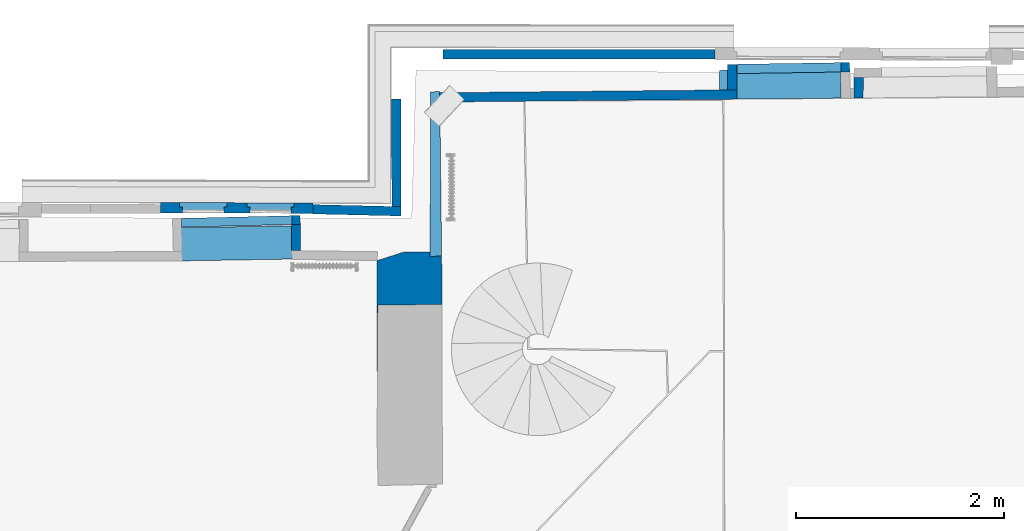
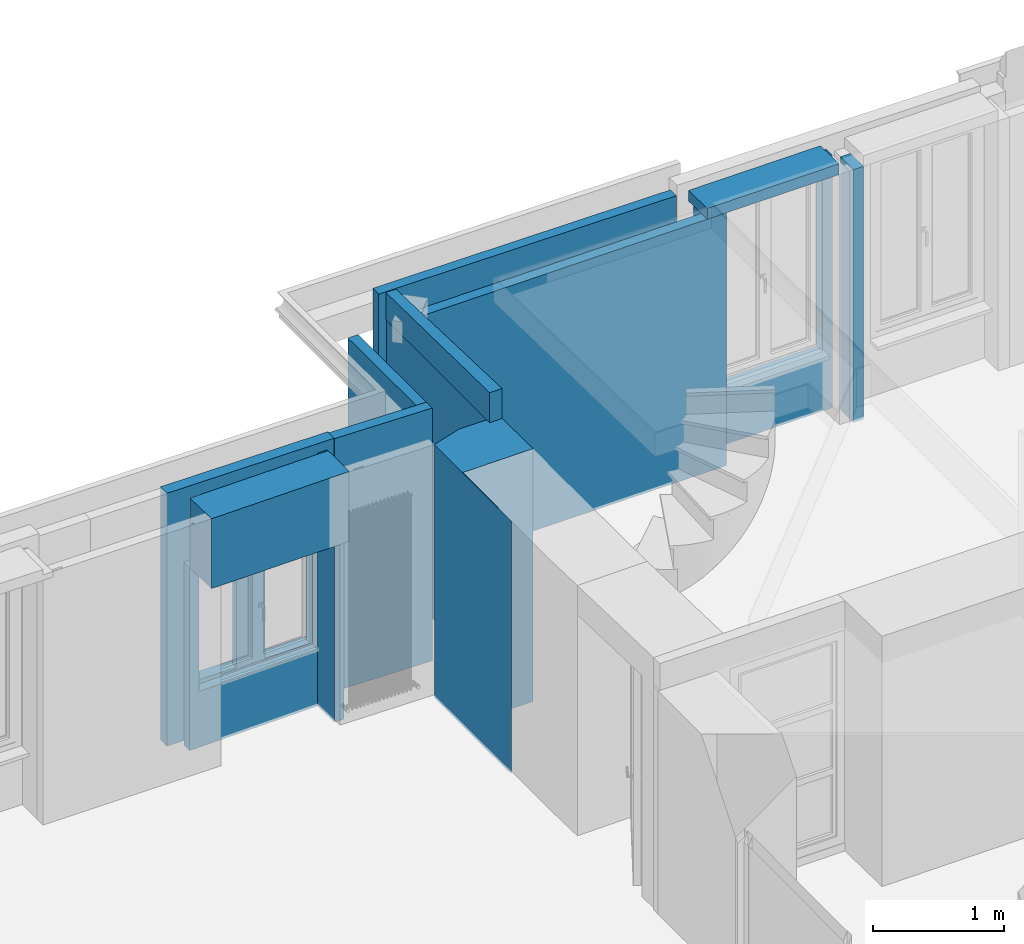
# One storey, part 23 of 72: 14 walls, 4 openings.
"""IFC2X3 building model written with IfcOpenShell, lengths in centimetres."""

import ifcopenshell
import ifcopenshell.guid

model = None  # the IFC model being written
_history = None  # IfcOwnerHistory: only IFC2X3 demands one
_inside = {}  # id of a spatial element -> (the spatial element, [elements in it])
_under = {}  # id of a project, library or spatial element -> (it, [spatial elements below it])
_declared = {}  # id of a project -> (the project, [libraries it declares])
_typed = {}  # id of a type object -> (the type object, [elements of that type])
_made_of = {}  # id of a material, layer set ... -> (it, [elements and type objects made of it])


def new_model(schema):
    """Start an empty IFC model of exactly this schema.

    Asked for "IFC4X3", IfcOpenShell would pick the latest addendum, in which some entities
    have other attributes; the version numbers below select the first issue.
    IFC2X3 requires an IfcOwnerHistory on every rooted entity: one is made here for all.
    """
    global model, _history
    if schema == "IFC4X3":
        model = ifcopenshell.file(schema_version=(4, 3, 0, 0))
    else:
        model = ifcopenshell.file(schema=schema)
    _inside.clear()
    _under.clear()
    _declared.clear()
    _typed.clear()
    _made_of.clear()
    _history = None
    if model.schema == "IFC2X3":
        org = make("IfcOrganization", Name="unknown")
        user = make(
            "IfcPersonAndOrganization",
            ThePerson=make("IfcPerson", FamilyName="unknown"),
            TheOrganization=org,
        )
        app = make(
            "IfcApplication",
            ApplicationDeveloper=org,
            Version="unknown",
            ApplicationFullName="unknown",
            ApplicationIdentifier="unknown",
        )
        _history = make(
            "IfcOwnerHistory",
            OwningUser=user,
            OwningApplication=app,
            ChangeAction="ADDED",
            CreationDate=0,
        )
    return model


def make(cls, **values):
    """One entity of the class cls with the attributes given. An attribute that is None is left unset."""
    return model.create_entity(
        cls, **{name: value for name, value in values.items() if value is not None}
    )


def entity(cls, *values):
    """Any entity or typed value of the class cls, its attributes in the order of the schema. None: left unset."""
    e = model.create_entity(cls)
    for i, value in enumerate(values):
        if value is not None:
            e[i] = value
    return e


def rooted(cls, **values):
    """An entity with a GlobalId (a new one), such as an element, a storey or a relation."""
    return make(cls, GlobalId=ifcopenshell.guid.new(), OwnerHistory=_history, **values)


def si_unit(unit_type, name, prefix=None):
    """IfcSIUnit, for example si_unit("LENGTHUNIT", "METRE", prefix="MILLI")."""
    return make("IfcSIUnit", UnitType=unit_type, Prefix=prefix, Name=name)


def converted_unit(unit_type, name, factor, base, dimensions=None, offset=None):
    """IfcConversionBasedUnit, such as the inch: factor (a typed value) times the base unit."""
    return make(
        "IfcConversionBasedUnit"
        if offset is None
        else "IfcConversionBasedUnitWithOffset",
        ConversionOffset=offset,
        Dimensions=None
        if dimensions is None
        else entity("IfcDimensionalExponents", *dimensions),
        UnitType=unit_type,
        Name=name,
        ConversionFactor=make(
            "IfcMeasureWithUnit", ValueComponent=factor, UnitComponent=base
        ),
    )


def assignment(units):
    """IfcUnitAssignment: the units of a project."""
    return None if units is None else make("IfcUnitAssignment", Units=units)


def point(xyz):
    """IfcCartesianPoint."""
    return None if xyz is None else make("IfcCartesianPoint", Coordinates=xyz)


def direction(xyz):
    """IfcDirection."""
    return None if xyz is None else make("IfcDirection", DirectionRatios=xyz)


def frame(location, z_axis=None, x_axis=None):
    """IfcAxis2Placement3D, a coordinate frame: its origin and axes. An axis left out is left unset."""
    return make(
        "IfcAxis2Placement3D",
        Location=point(location),
        Axis=direction(z_axis),
        RefDirection=direction(x_axis),
    )


def frame_2d(location, x_axis=None):
    """IfcAxis2Placement2D, a coordinate frame in the plane: its origin and x axis."""
    return make(
        "IfcAxis2Placement2D", Location=point(location), RefDirection=direction(x_axis)
    )


def origin():
    """The frame at (0, 0, 0) with its axes left unset."""
    return frame((0.0, 0.0, 0.0))


def origin_with_axes():
    """The frame at (0, 0, 0) with the z axis (0, 0, 1) and the x axis (1, 0, 0) written out."""
    return frame((0.0, 0.0, 0.0), z_axis=(0.0, 0.0, 1.0), x_axis=(1.0, 0.0, 0.0))


def origin_2d_with_axis():
    """The frame at (0, 0) in the plane with the x axis (1, 0) written out."""
    return frame_2d((0.0, 0.0), x_axis=(1.0, 0.0))


def place(relative_to, where):
    """IfcLocalPlacement: puts the frame where relative to a parent placement (None: the world)."""
    return make(
        "IfcLocalPlacement", PlacementRelTo=relative_to, RelativePlacement=where
    )


def context(
    kind, dimensions, precision=None, world=None, true_north=None, identifier=None
):
    """IfcGeometricRepresentationContext, for example the 3D "Model" context."""
    return make(
        "IfcGeometricRepresentationContext",
        ContextIdentifier=identifier,
        ContextType=kind,
        CoordinateSpaceDimension=dimensions,
        Precision=precision,
        WorldCoordinateSystem=world,
        TrueNorth=true_north,
    )


def subcontext(parent, identifier, kind, view, scale=None):
    """IfcGeometricRepresentationSubContext, for example "Body" below "Model"."""
    return make(
        "IfcGeometricRepresentationSubContext",
        ContextIdentifier=identifier,
        ContextType=kind,
        ParentContext=parent,
        TargetScale=scale,
        TargetView=view,
    )


def project(units=None, contexts=None):
    """IfcProject with its units and contexts."""
    return rooted(
        "IfcProject",
        Name="project",
        RepresentationContexts=contexts,
        UnitsInContext=assignment(units),
    )


def spatial(cls, under=None, at=None, **own):
    """A site, building, storey or space (cls), placed at a placement, below another one or the project."""
    s = rooted(cls, ObjectPlacement=at, **own)
    if under is not None:
        _under.setdefault(under.id(), (under, []))[1].append(s)
    return s


def polyline(points):
    """IfcPolyline through the points."""
    return make("IfcPolyline", Points=[point(p) for p in points])


def profile(cls, at=None, kind="AREA", **sizes):
    """A parametric profile (cls). Its sizes go by their IFC names, for example OverallWidth=200.0."""
    return make(cls, ProfileType=kind, Position=at, **sizes)


def rectangle(**sizes):
    """IfcRectangleProfileDef."""
    return profile("IfcRectangleProfileDef", **sizes)


def outline(outer, holes=None, kind="AREA"):
    """IfcArbitraryClosedProfileDef: a profile drawn as a closed curve; with holes, ...WithVoids."""
    if holes is None:
        return make("IfcArbitraryClosedProfileDef", ProfileType=kind, OuterCurve=outer)
    return make(
        "IfcArbitraryProfileDefWithVoids",
        ProfileType=kind,
        OuterCurve=outer,
        InnerCurves=holes,
    )


def extrude(swept, where, along, depth):
    """IfcExtrudedAreaSolid: the profile swept, set in the frame where, extruded along a direction by depth."""
    return make(
        "IfcExtrudedAreaSolid",
        SweptArea=swept,
        Position=where,
        ExtrudedDirection=direction(along),
        Depth=depth,
    )


def clip(a, b, op="DIFFERENCE"):
    """IfcBooleanClippingResult: the solid a cut by the half space b."""
    return make(
        "IfcBooleanClippingResult", Operator=op, FirstOperand=a, SecondOperand=b
    )


def bounded_halfspace(plane, agree, where, boundary):
    """IfcPolygonalBoundedHalfSpace: a half space limited to a polygon's prism."""
    return make(
        "IfcPolygonalBoundedHalfSpace",
        BaseSurface=make("IfcPlane", Position=plane),
        AgreementFlag=agree,
        Position=where,
        PolygonalBoundary=boundary,
    )


def faces_of(points, faces, orient=None, outer=None):
    """IfcFace entities. A face is a list of loops; a loop is a list of indices into points, from 0.

    orient and outer hold one flag for each loop. By default every Orientation is true, the
    first loop of a face is its IfcFaceOuterBound and the others are IfcFaceBound.
    """
    made = []
    for i, loops in enumerate(faces):
        bounds = []
        for j, loop in enumerate(loops):
            is_outer = j == 0 if outer is None else outer[i][j]
            bounds.append(
                make(
                    "IfcFaceOuterBound" if is_outer else "IfcFaceBound",
                    Bound=make("IfcPolyLoop", Polygon=[points[k] for k in loop]),
                    Orientation=True if orient is None else orient[i][j],
                )
            )
        made.append(make("IfcFace", Bounds=bounds))
    return made


def faceted_brep(points, faces, orient=None, outer=None, voids=None):
    """IfcFacetedBrep: a solid bounded by flat faces; with voids (closed shells), ...WithVoids."""
    shared = [point(p) for p in points]
    hull = make("IfcClosedShell", CfsFaces=faces_of(shared, faces, orient, outer))
    if voids is None:
        return make("IfcFacetedBrep", Outer=hull)
    return make(
        "IfcFacetedBrepWithVoids",
        Outer=hull,
        Voids=[
            make(cls, CfsFaces=faces_of(shared, fs, o, b)) for cls, fs, o, b in voids
        ],
    )


def shape(context_of_items, identifier, shape_type, items):
    """IfcShapeRepresentation: the items that make up one representation, for example the "Body"."""
    return make(
        "IfcShapeRepresentation",
        ContextOfItems=context_of_items,
        RepresentationIdentifier=identifier,
        RepresentationType=shape_type,
        Items=items,
    )


def material(Name=None, Category=None):
    """IfcMaterial."""
    return make("IfcMaterial", Name=Name, Category=Category)


def layer(
    of_material, thickness, ventilated=None, Name=None, Category=None, Priority=None
):
    """IfcMaterialLayer: one layer of a wall or slab, of a material (None: an air gap)."""
    return make(
        "IfcMaterialLayer",
        Material=of_material,
        LayerThickness=thickness,
        IsVentilated=ventilated,
        Name=Name,
        Category=Category,
        Priority=Priority,
    )


def layer_set(layers, Name=None):
    """IfcMaterialLayerSet."""
    return make("IfcMaterialLayerSet", MaterialLayers=layers, LayerSetName=Name)


def layer_usage(for_layer_set, set_direction, sense, offset, extent=None):
    """IfcMaterialLayerSetUsage: how a layer set lies in its element."""
    return make(
        "IfcMaterialLayerSetUsage",
        ForLayerSet=for_layer_set,
        LayerSetDirection=set_direction,
        DirectionSense=sense,
        OffsetFromReferenceLine=offset,
        ReferenceExtent=extent,
    )


def made_of(thing, what):
    """Note that an element or type object is made of a material, layer set ...; save() writes the relation."""
    if what is not None:
        _made_of.setdefault(what.id(), (what, []))[1].append(thing)
    return thing


def type_object(cls, material=None, **own):
    """A type object (cls), such as IfcWallType, which elements share."""
    return made_of(rooted(cls, **own), material)


def element(
    cls,
    number,
    at=None,
    inside=None,
    cuts=None,
    type_object=None,
    material=None,
    context=None,
    identifier="Body",
    shape_type=None,
    held_by="IfcProductDefinitionShape",
    body=None,
    shapes=None,
    **own,
):
    """One element of the class cls, such as IfcWall. Its Tag is "e" and its number.

    at: its placement. inside: the storey or other place that contains it. cuts: it is an
    opening in that element (IfcRelVoidsElement). A single representation is given by context,
    identifier, shape_type and body (its items); several are given by shapes. held_by: the class
    of the entity that holds the representations. save() writes the other relations.
    """
    e = rooted(cls, Tag="e%d" % number, ObjectPlacement=at, **own)
    if body is not None:
        shapes = [shape(context, identifier, shape_type, body)]
    if shapes is not None:
        e.Representation = make(held_by, Representations=shapes)
    if inside is not None:
        _inside.setdefault(inside.id(), (inside, []))[1].append(e)
    if cuts is not None:
        rooted(
            "IfcRelVoidsElement", RelatingBuildingElement=cuts, RelatedOpeningElement=e
        )
    if type_object is not None:
        _typed.setdefault(type_object.id(), (type_object, []))[1].append(e)
    return made_of(e, material)


def aggregate(whole, parts):
    """IfcRelAggregates: a whole, such as a stair, and the parts it consists of."""
    return rooted("IfcRelAggregates", RelatingObject=whole, RelatedObjects=parts)


def save(model, path):
    """Write the relations noted so far, then the file.

    IfcRelAggregates (storeys below a building ...), IfcRelContainedInSpatialStructure (elements
    in a storey), IfcRelDefinesByType, IfcRelAssociatesMaterial and IfcRelDeclares: one each for
    every whole, place, type object, material and project.
    """
    for whole, parts in _under.values():
        aggregate(whole, parts)
    for where, things in _inside.values():
        rooted(
            "IfcRelContainedInSpatialStructure",
            RelatedElements=things,
            RelatingStructure=where,
        )
    for kind, things in _typed.values():
        rooted("IfcRelDefinesByType", RelatedObjects=things, RelatingType=kind)
    for what, things in _made_of.values():
        rooted("IfcRelAssociatesMaterial", RelatedObjects=things, RelatingMaterial=what)
    for by, libraries in _declared.values():
        rooted("IfcRelDeclares", RelatingContext=by, RelatedDefinitions=libraries)
    model.write(path)


model = new_model("IFC2X3")

# Units and contexts
model_context = context("Model", 3, precision=0.0001, world=origin(), true_north=direction((0.225632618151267, 0.974212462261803, 0.0)))
body_context = subcontext(model_context, "Body", "Model", "MODEL_VIEW")
footprint_context = subcontext(model_context, "FootPrint", "Model", "MODEL_VIEW")
profile_context = subcontext(model_context, "Profile", "Model", "MODEL_VIEW")
ifc_project = project(units=[si_unit("LENGTHUNIT", "METRE", prefix="CENTI"), si_unit("AREAUNIT", "SQUARE_METRE", prefix="CENTI"), si_unit("VOLUMEUNIT", "CUBIC_METRE", prefix="CENTI"), converted_unit("PLANEANGLEUNIT", "DEGREE", entity("IfcRatioMeasure", 0.0174532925), si_unit("PLANEANGLEUNIT", "RADIAN"), dimensions=[0, 0, 0, 0, 0, 0, 0])], contexts=[model_context])

# Site, building, storey
site_placement = place(None, origin_with_axes())
site = spatial("IfcSite", under=ifc_project, at=site_placement, Name="Default Site", CompositionType="ELEMENT")
building_placement = place(site_placement, origin_with_axes())
building = spatial("IfcBuilding", under=site, at=building_placement, Name="Default Building", CompositionType="ELEMENT")
storey_placement = place(building_placement, frame((0.0, 0.0, 853.910374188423), z_axis=(0.0, 0.0, 1.0), x_axis=(1.0, 0.0, 0.0)))
storey = spatial("IfcBuildingStorey", under=building, at=storey_placement, Name="Niveau 2", CompositionType="ELEMENT", Elevation=853.910374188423)

# Walls
ifc_material = material(Name="<aucun>")
ifc_layer_1 = layer(ifc_material, 9.0)
ifc_layer_set_1 = layer_set([ifc_layer_1], Name="default")
ifc_layer_usage_1 = layer_usage(ifc_layer_set_1, "AXIS2", "POSITIVE", -4.5)
wall_type_1 = type_object("IfcWallType", Name="default 90", PredefinedType="NOTDEFINED", material=ifc_layer_set_1)
wall_1_placement = place(storey_placement, frame((245.892679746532, 602.890338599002, -1.95399252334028e-11), z_axis=(0.0, 0.0, 1.0), x_axis=(-0.999723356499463, 0.0235204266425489, 0.0)))
element("IfcWallStandardCase", 1, at=wall_1_placement, inside=storey, type_object=wall_type_1, material=ifc_layer_usage_1, Name="Enveloppe 464347", context=body_context, shape_type="SweptSolid", body=[
    extrude(outline(polyline([(75.6615799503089, 4.50000000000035), (-9.23224446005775, 4.4999999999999), (-9.00292114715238, -4.50000000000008), (75.661579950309, -4.49999999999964), (75.6954889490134, -6.09662219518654), (75.8739116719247, -6.09283286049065), (75.661579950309, 3.90491264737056), (75.6615799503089, 4.50000000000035)])), frame((0.0, 0.0, 1.98951966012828e-11), z_axis=(0.0, 0.0, 1.0), x_axis=(1.0, 0.0, 0.0)), (0.0, 0.0, 1.0), 234.999999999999),
])
ifc_layer_usage_2 = layer_usage(ifc_layer_set_1, "AXIS2", "POSITIVE", -4.5)
wall_2_placement = place(storey_placement, frame((556.943562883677, 753.773628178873, -1.95399252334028e-11), z_axis=(0.0, 0.0, 1.0), x_axis=(-0.999999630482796, 0.000859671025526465, 0.0)))
element("IfcWallStandardCase", 2, at=wall_2_placement, inside=storey, type_object=wall_type_1, material=ifc_layer_usage_2, Name="Enveloppe 464007", context=body_context, shape_type="SweptSolid", body=[
    extrude(outline(polyline([(261.72146719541, 4.50000000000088), (-5.32907051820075e-13, 4.49999999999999), (-0.0169835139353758, -4.49999981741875), (261.721467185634, -4.49996984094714), (261.72146719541, 4.50000000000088)])), frame((0.0, 0.0, 1.95399252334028e-11), z_axis=(0.0, 0.0, 1.0), x_axis=(1.0, 0.0, 0.0)), (0.0, 0.0, 1.0), 234.999999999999),
])
ifc_layer_usage_3 = layer_usage(ifc_layer_set_1, "AXIS2", "POSITIVE", -4.5)
wall_3_placement = place(storey_placement, frame((250.498513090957, 607.397878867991, 1.4210854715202e-12), z_axis=(0.0, 0.0, 1.0), x_axis=(-0.00195225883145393, 0.999998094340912, 0.0)))
element("IfcWallStandardCase", 3, at=wall_3_placement, inside=storey, type_object=wall_type_1, material=ifc_layer_usage_3, Name="Enveloppe 471715", context=body_context, shape_type="SweptSolid", body=[
    extrude(outline(polyline([(103.456406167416, 4.49999999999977), (8.88178419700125e-14, 4.49999999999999), (-0.229323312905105, -4.50000000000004), (103.456406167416, -4.50000000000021), (103.456406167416, 4.49999999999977)])), frame((0.0, 0.0, 8.88178419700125e-13), z_axis=(0.0, 0.0, 1.0), x_axis=(1.0, 0.0, 0.0)), (0.0, 0.0, 1.0), 234.999999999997),
])
ifc_layer_usage_4 = layer_usage(ifc_layer_set_1, "AXIS2", "POSITIVE", -4.5)
wall_4_placement = place(storey_placement, frame((695.052273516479, 711.837100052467, 1.4210854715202e-12), z_axis=(0.0, 0.0, 1.0), x_axis=(0.013562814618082, 0.999908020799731, 0.0)))
element("IfcWallStandardCase", 4, at=wall_4_placement, inside=storey, type_object=wall_type_1, material=ifc_layer_usage_4, Name="Enveloppe 734442", context=body_context, shape_type="SweptSolid", body=[
    extrude(outline(polyline([(8.79256035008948, 4.50000000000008), (-0.204993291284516, 4.29017037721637), (-1.77635683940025e-13, -4.4999999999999), (19.8836284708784, -4.4999999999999), (19.652077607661, 4.49999999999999), (8.79256035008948, 4.50000000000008)])), frame((0.0, 0.0, -5.32907051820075e-13), z_axis=(0.0, 0.0, 1.0), x_axis=(1.0, 0.0, 0.0)), (0.0, 0.0, 1.0), 234.999999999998),
])

# Wall, opening
ifc_layer_usage_5 = layer_usage(ifc_layer_set_1, "AXIS2", "POSITIVE", -4.5)
wall_5_placement = place(storey_placement, frame((574.834266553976, 739.650122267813, 1.06581410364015e-12), z_axis=(0.0, 0.0, 1.0), x_axis=(0.999878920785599, 0.0155609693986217, 0.0)))
wall_5 = element("IfcWallStandardCase", 5, at=wall_5_placement, inside=storey, type_object=wall_type_1, material=ifc_layer_usage_5, Name="Enveloppe 177736", context=body_context, shape_type="SweptSolid", body=[
    extrude(outline(polyline([(3.03935795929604, 4.49999999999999), (3.03373275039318, -4.49999999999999), (111.848515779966, -4.49999999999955), (111.750096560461, 4.50000000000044), (3.03935795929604, 4.49999999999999)])), frame((0.0, 0.0, -1.77635683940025e-13), z_axis=(0.0, 0.0, 1.0), x_axis=(1.0, 0.0, 0.0)), (0.0, 0.0, 1.0), 234.999999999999),
])
opening_1_placement = place(wall_5_placement, frame((3.17476420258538, 1.13686837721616e-13, 57.9999999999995), z_axis=(0.0, 0.0, 1.0), x_axis=(-1.0, -4.82079653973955e-15, 0.0)))
cartesian_point_1 = entity("IfcCartesianPoint", [0.0, 0.0, 170.0])
cartesian_point_2 = entity("IfcCartesianPoint", [-100.091748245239, -4.4999999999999])
element("IfcOpeningElement", 6, at=opening_1_placement, cuts=wall_5, Name="4294966527_11", ObjectType="Opening", shapes=[
    shape(body_context, "Body", "SweptSolid", [extrude(outline(polyline([(0.0, 170.0), (0.0, -2.99999999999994), (100.091748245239, -2.99999999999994), (100.091748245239, 170.0), (0.0, 170.0)])), frame((0.0, -14.5, 0.0), z_axis=(0.0, 1.0, 0.0), x_axis=(-1.0, 0.0, 0.0)), (0.0, 0.0, 1.0), 29.0)]),
    shape(profile_context, "Profile", "GeometricCurveSet", [entity("IfcGeometricCurveSet", [entity("IfcPolyline", [cartesian_point_1, entity("IfcCartesianPoint", [0.0, 0.0, 0.0]), entity("IfcCartesianPoint", [-100.091748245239, 8.88178419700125e-14, 0.0]), entity("IfcCartesianPoint", [-100.091748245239, 8.88178419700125e-14, 170.0]), cartesian_point_1])])]),
    shape(footprint_context, "FootPrint", "GeometricCurveSet", [entity("IfcGeometricCurveSet", [entity("IfcPolyline", [cartesian_point_2, entity("IfcCartesianPoint", [0.0, -4.4999999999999]), entity("IfcCartesianPoint", [8.88178419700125e-14, 4.49999999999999]), entity("IfcCartesianPoint", [-100.091748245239, 4.49999999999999]), cartesian_point_2])])]),
])

# Walls
ifc_layer_usage_6 = layer_usage(ifc_layer_set_1, "AXIS2", "POSITIVE", -4.5)
wall_6_placement = place(storey_placement, frame((573.80568903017, 710.5264011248, 1.4210854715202e-12), z_axis=(0.0, 0.0, 1.0), x_axis=(-0.0149360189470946, 0.999888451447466, 0.0)))
element("IfcWallStandardCase", 7, at=wall_6_placement, inside=storey, type_object=wall_type_1, material=ifc_layer_usage_6, Name="Enveloppe 177689", context=body_context, shape_type="SweptSolid", body=[
    extrude(outline(polyline([(33.6013831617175, 4.49999999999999), (9.04663428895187, 4.50000000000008), (8.99998426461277, -4.49999999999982), (33.6070083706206, -4.49999999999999), (33.6013831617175, 4.49999999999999)])), frame((0.0, 0.0, 5.32907051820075e-13), z_axis=(0.0, 0.0, 1.0), x_axis=(1.0, 0.0, 0.0)), (0.0, 0.0, 1.0), 234.999999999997),
])
ifc_layer_usage_7 = layer_usage(ifc_layer_set_1, "AXIS2", "POSITIVE", -4.5)
wall_7_placement = place(storey_placement, frame((292.169506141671, 712.302839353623, 1.06581410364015e-12), z_axis=(0.0, 0.0, 1.0), x_axis=(0.999952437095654, 0.00975313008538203, 0.0)))
element("IfcWallStandardCase", 8, at=wall_7_placement, inside=storey, type_object=wall_type_1, material=ifc_layer_usage_7, Name="Enveloppe 177690", context=body_context, shape_type="SweptSolid", body=[
    extrude(outline(polyline([(-0.0188668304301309, 4.50000000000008), (-1.77635683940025e-13, -4.49999999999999), (286.105401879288, -4.4999999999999), (286.058751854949, 4.49999999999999), (-0.0188668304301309, 4.50000000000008)])), frame((0.0, 0.0, -5.32907051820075e-13), z_axis=(0.0, 0.0, 1.0), x_axis=(1.0, 0.0, 0.0)), (0.0, 0.0, 1.0), 234.999999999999),
])
ifc_layer_usage_8 = layer_usage(ifc_layer_set_1, "AXIS2", "POSITIVE", -4.5)
wall_8_placement = place(storey_placement, frame((289.470793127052, 559.474658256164, 1.06581410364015e-12), z_axis=(0.0, 0.0, 1.0), x_axis=(-0.0118493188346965, 0.999929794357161, 0.0)))
element("IfcWallStandardCase", 9, at=wall_8_placement, inside=storey, type_object=wall_type_1, material=ifc_layer_usage_8, Name="Enveloppe 151062", context=body_context, shape_type="Clipping", body=[
    clip(clip(extrude(outline(polyline([(8.88178419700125e-14, 6.52341083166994), (0.0, -4.49999999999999), (158.287307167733, -4.49999999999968), (158.287318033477, 4.50091692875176), (8.88178419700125e-14, 6.52341083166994)])), frame((0.0, 0.0, 234.999999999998), z_axis=(0.0, 0.0, 1.0), x_axis=(1.0, 0.0, 0.0)), (0.0, 0.0, 1.0), 27.9444761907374), bounded_halfspace(frame((157.285503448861, -4.49999999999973, 260.015282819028), z_axis=(-0.0186201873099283, -3.7621815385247e-17, -0.999826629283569), x_axis=(-0.00209630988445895, -0.99999780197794, 3.90404511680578e-05)), True, frame((157.285503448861, -4.49999999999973, 260.015282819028), z_axis=(0.0, 0.0, 1.0), x_axis=(1.0, 0.0, 0.0)), polyline([(8.88178419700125e-14, 0.0), (1.00180371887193, 0.0), (1.00180371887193, 9.00000000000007), (0.0188931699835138, 9.01256469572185), (8.88178419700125e-14, 0.0)]))), bounded_halfspace(frame((8.88178419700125e-14, -4.50000000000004, 262.944476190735), z_axis=(-0.0186201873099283, -3.7621815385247e-17, -0.999826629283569), x_axis=(0.999826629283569, 2.02442229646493e-15, -0.0186201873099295)), True, frame((8.88178419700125e-14, -4.50000000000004, 262.944476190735), z_axis=(0.0, 0.0, 1.0), x_axis=(1.0, 0.0, 0.0)), polyline([(0.0, 0.0), (157.285503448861, 3.10862446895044e-13), (157.304396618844, 9.01256469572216), (1.77635683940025e-13, 11.0234108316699), (0.0, 0.0)]))),
])

# Wall, openings
ifc_layer_2 = layer(ifc_material, 10.0)
ifc_layer_set_2 = layer_set([ifc_layer_2], Name="default")
ifc_layer_usage_9 = layer_usage(ifc_layer_set_2, "AXIS2", "POSITIVE", -5.0)
wall_type_2 = type_object("IfcWallType", Name="default 100", PredefinedType="NOTDEFINED", material=ifc_layer_set_2)
wall_9_placement = place(storey_placement, frame((170.350087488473, 605.765677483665, -1.95399252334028e-11), z_axis=(0.0, 0.0, 1.0), x_axis=(-0.999997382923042, 0.00228782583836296, 0.0)))
wall_9 = element("IfcWallStandardCase", 10, at=wall_9_placement, inside=storey, type_object=wall_type_2, material=ifc_layer_usage_9, Name="Enveloppe 738299", context=body_context, shape_type="SweptSolid", body=[
    extrude(rectangle(XDim=9.99999999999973, YDim=146.664573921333, at=origin_2d_with_axis()), frame((73.5107499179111, -8.88178419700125e-14, 1.98951966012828e-11), z_axis=(0.0, 0.0, 1.0), x_axis=(-6.07153216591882e-17, -1.0, 0.0)), (0.0, 0.0, 1.0), 234.999999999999),
])
opening_2_placement = place(wall_9_placement, frame((18.3195207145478, -1.13686837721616e-13, 51.6522080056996), z_axis=(0.0, 0.0, 1.0), x_axis=(-1.0, 1.40209024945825e-15, 0.0)))
cartesian_point_3 = entity("IfcCartesianPoint", [0.0, 0.0, 120.207639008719])
cartesian_point_4 = entity("IfcCartesianPoint", [-45.5994283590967, -5.00000000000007])
element("IfcOpeningElement", 11, at=opening_2_placement, cuts=wall_9, Name="Baie 738682", ObjectType="Opening", shapes=[
    shape(body_context, "Body", "Brep", [faceted_brep([(-2.99999768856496, -25.0000136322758, 120.207605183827), (-42.5994246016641, -25.0000136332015, 120.207605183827), (-42.5994246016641, -25.0000136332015, 9.35863138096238e-06), (-2.99999768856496, -25.0000136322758, 9.35863138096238e-06), (-2.75131282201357e-06, 25.0000188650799, 9.35863138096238e-06), (-45.5994276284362, 25.0000188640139, 9.35863138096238e-06), (-45.5994276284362, 25.0000188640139, 120.207605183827), (-2.75131282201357e-06, 25.0000188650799, 120.207605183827), (-2.99999768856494, -25.0000136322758, 9.35863138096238e-06), (-2.99999768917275, 0.999981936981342, 9.35863138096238e-06), (-2.99999768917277, 0.999981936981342, 120.207605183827), (-2.99999571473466, 0.999981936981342, 120.207605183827), (-2.99999571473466, 0.999981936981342, 9.35863138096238e-06), (-2.63862540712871e-06, 0.999981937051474, 9.35863138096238e-06), (-2.63862540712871e-06, 0.999981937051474, 120.207605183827), (-2.63862540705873e-06, 0.999978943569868, 120.207605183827), (-2.63862540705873e-06, 0.999978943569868, 9.35863138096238e-06), (-2.6391864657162e-06, 25.0000188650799, 9.35863138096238e-06), (-2.6391864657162e-06, 25.0000188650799, 120.207605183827), (-42.5994246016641, -25.0000111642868, 9.35863138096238e-06), (-42.5994226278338, 0.999984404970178, 9.35863138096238e-06), (-45.5994276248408, 0.999987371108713, 9.35863138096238e-06), (-45.5994276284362, 24.9999796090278, 9.35863138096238e-06), (-42.5994246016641, -25.0000111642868, 120.207605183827), (-42.5994246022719, 0.999984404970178, 120.207605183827), (-42.5994246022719, 0.999984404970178, 9.35863138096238e-06), (-42.5994226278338, 0.999984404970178, 120.207605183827), (-45.5994276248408, 0.999984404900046, 120.207605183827), (-45.5994276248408, 0.999984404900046, 9.35863138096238e-06), (-45.5994276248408, 0.999987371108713, 120.207605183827), (-45.5994276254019, 24.9999796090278, 120.207605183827), (-45.5994276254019, 24.9999796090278, 9.35863138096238e-06), (-45.5994276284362, 24.9999796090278, 120.207605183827)], [[[0, 1, 2, 3]], [[4, 5, 6, 7]], [[0, 8, 9, 10]], [[11, 12, 13, 14]], [[15, 16, 17, 18]], [[3, 19, 20, 21, 22, 4, 16, 12]], [[19, 23, 24, 25]], [[20, 26, 27, 28]], [[21, 29, 30, 31]], [[11, 15, 7, 32, 29, 26, 23, 0]]])]),
    shape(profile_context, "Profile", "GeometricCurveSet", [entity("IfcGeometricCurveSet", [entity("IfcPolyline", [cartesian_point_3, entity("IfcCartesianPoint", [0.0, 0.0, 0.0]), entity("IfcCartesianPoint", [-45.5994283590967, 0.0, 0.0]), entity("IfcCartesianPoint", [-45.5994283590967, 0.0, 120.207639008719]), cartesian_point_3])])]),
    shape(footprint_context, "FootPrint", "GeometricCurveSet", [entity("IfcGeometricCurveSet", [entity("IfcPolyline", [cartesian_point_4, entity("IfcCartesianPoint", [2.22044604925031e-14, -5.00000000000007]), entity("IfcCartesianPoint", [0.0, 4.99999999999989]), entity("IfcCartesianPoint", [-45.5994283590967, 4.99999999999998]), cartesian_point_4])])]),
])
opening_3_placement = place(wall_9_placement, frame((82.9649336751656, -1.13686837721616e-13, 52.0000000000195), z_axis=(0.0, 0.0, 1.0), x_axis=(-1.0, 1.40209024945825e-15, 0.0)))
cartesian_point_5 = entity("IfcCartesianPoint", [-2.22044604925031e-14, 8.88178419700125e-14, 120.207639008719])
cartesian_point_6 = entity("IfcCartesianPoint", [-45.5994283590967, -5.00000000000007])
element("IfcOpeningElement", 12, at=opening_3_placement, cuts=wall_9, Name="Baie 738683", ObjectType="Opening", shapes=[
    shape(body_context, "Body", "Brep", [faceted_brep([(-3.00000260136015, -24.999996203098, 120.2076182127), (-42.5994295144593, -24.9999962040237, 120.2076182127), (-42.5994295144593, -24.9999962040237, 2.23875048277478e-05), (-3.00000260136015, -24.999996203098, 2.23875048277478e-05), (-1.59456708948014e-06, 24.999988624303, 2.23875048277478e-05), (-45.5994295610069, 24.999988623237, 2.23875048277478e-05), (-45.5994295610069, 24.999988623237, 120.2076182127), (-1.59456708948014e-06, 24.999988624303, 120.2076182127), (-3.00000260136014, -24.999996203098, 2.23875048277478e-05), (-3.00000260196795, 0.999999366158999, 2.23875048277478e-05), (-3.00000260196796, 0.999999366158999, 120.2076182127), (-3.00000062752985, 0.999999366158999, 120.2076182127), (-3.00000062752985, 0.999999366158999, 2.23875048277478e-05), (-1.59097172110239e-06, 0.999999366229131, 2.23875048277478e-05), (-1.59097172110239e-06, 0.999999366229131, 120.2076182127), (-1.59097172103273e-06, 0.999996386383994, 120.2076182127), (-1.59097170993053e-06, 0.999996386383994, 2.23875048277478e-05), (-1.59153276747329e-06, 24.999988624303, 2.23875048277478e-05), (-1.59153277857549e-06, 24.999988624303, 120.2076182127), (-42.5994295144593, -24.9999937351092, 2.23875048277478e-05), (-42.599427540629, 1.00000183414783, 2.23875048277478e-05), (-45.5994295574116, 1.00000480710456, 2.23875048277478e-05), (-45.5994295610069, 24.9999970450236, 2.23875048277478e-05), (-1.59097172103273e-06, 0.999996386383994, 2.23875048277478e-05), (-42.5994295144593, -24.9999937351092, 120.2076182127), (-42.5994295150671, 1.00000183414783, 120.2076182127), (-42.5994295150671, 1.00000183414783, 2.23875048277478e-05), (-42.599427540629, 1.00000183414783, 120.2076182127), (-45.5994295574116, 1.0000018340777, 120.2076182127), (-45.5994295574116, 1.0000018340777, 2.23875048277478e-05), (-45.5994295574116, 1.00000480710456, 120.2076182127), (-45.5994295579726, 24.9999970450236, 120.2076182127), (-45.5994295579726, 24.9999970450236, 2.23875048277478e-05), (-45.5994295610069, 24.9999970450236, 120.2076182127)], [[[0, 1, 2, 3]], [[4, 5, 6, 7]], [[0, 8, 9, 10]], [[11, 12, 13, 14]], [[15, 16, 17, 18]], [[3, 19, 20, 21, 22, 4, 23, 12]], [[19, 24, 25, 26]], [[20, 27, 28, 29]], [[21, 30, 31, 32]], [[11, 15, 7, 33, 30, 27, 24, 0]]])]),
    shape(profile_context, "Profile", "GeometricCurveSet", [entity("IfcGeometricCurveSet", [entity("IfcPolyline", [cartesian_point_5, entity("IfcCartesianPoint", [-1.11022302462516e-14, 8.88178419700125e-14, 0.0]), entity("IfcCartesianPoint", [-45.5994283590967, 0.0, 0.0]), entity("IfcCartesianPoint", [-45.5994283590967, 0.0, 120.207639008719]), cartesian_point_5])])]),
    shape(footprint_context, "FootPrint", "GeometricCurveSet", [entity("IfcGeometricCurveSet", [entity("IfcPolyline", [cartesian_point_6, entity("IfcCartesianPoint", [-1.11022302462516e-14, -4.99999999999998]), entity("IfcCartesianPoint", [0.0, 5.00000000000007]), entity("IfcCartesianPoint", [-45.5994283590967, 4.99999999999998]), cartesian_point_6])])]),
])

# Walls
ifc_layer_3 = layer(ifc_material, 28.0)
ifc_layer_set_3 = layer_set([ifc_layer_3], Name="default")
ifc_layer_usage_10 = layer_usage(ifc_layer_set_3, "AXIS2", "POSITIVE", -14.0)
wall_type_3 = type_object("IfcWallType", Name="default 280", PredefinedType="NOTDEFINED", material=ifc_layer_set_3)
wall_10_placement = place(storey_placement, frame((561.354401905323, 724.428811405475, 235.0), z_axis=(0.0, 0.0, 1.0), x_axis=(0.999952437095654, 0.00975313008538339, 0.0)))
element("IfcWallStandardCase", 13, at=wall_10_placement, inside=storey, type_object=wall_type_3, material=ifc_layer_usage_10, Name="Enveloppe 179805", context=body_context, shape_type="SweptSolid", body=[
    extrude(rectangle(XDim=116.672138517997, YDim=28.0, at=origin_2d_with_axis()), frame((58.3360692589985, -8.88178419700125e-14, -1.77635683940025e-13), z_axis=(0.0, 0.0, 1.0), x_axis=(1.0, -1.52135248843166e-15, 0.0)), (0.0, 0.0, 1.0), 9.99999999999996),
])
ifc_layer_4 = layer(ifc_material, 8.5)
ifc_layer_set_4 = layer_set([ifc_layer_4], Name="default")
ifc_layer_usage_11 = layer_usage(ifc_layer_set_4, "AXIS2", "POSITIVE", -4.25)
wall_type_4 = type_object("IfcWallType", Name="default 85", PredefinedType="NOTDEFINED", material=ifc_layer_set_4)
wall_11_placement = place(storey_placement, frame((154.015162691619, 556.412202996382, 1.4210854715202e-12), z_axis=(0.0, 0.0, 1.0), x_axis=(-0.0101915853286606, 0.999948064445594, 0.0)))
element("IfcWallStandardCase", 14, at=wall_11_placement, inside=storey, type_object=wall_type_4, material=ifc_layer_usage_11, Name="Enveloppe 163664", context=body_context, shape_type="Clipping", body=[
    clip(clip(clip(extrude(outline(polyline([(33.668268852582, 4.24999999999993), (8.50546010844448, 4.24999999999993), (8.31088678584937, -4.25000000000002), (33.7291785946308, -4.25000000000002), (33.6682688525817, 0.0879688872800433), (33.668268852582, 4.24999999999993)])), frame((0.0, 0.0, -7.105427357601e-13), z_axis=(0.0, 0.0, 1.0), x_axis=(1.0, 0.0, 0.0)), (0.0, 0.0, 1.0), 234.999999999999), bounded_halfspace(frame((33.668268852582, 4.24999999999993, 169.999999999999), z_axis=(0.0, 0.0, 1.0), x_axis=(1.37910516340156e-14, -1.0, 0.0)), True, frame((33.668268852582, 4.24999999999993, 169.999999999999), z_axis=(0.0, 0.0, 1.0), x_axis=(1.0, 0.0, 0.0)), polyline([(-0.0584393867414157, 0.0), (-8.88178419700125e-14, 0.0), (0.0, -4.16203111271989), (-0.0584393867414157, 0.0)]))), bounded_halfspace(frame((32.4214596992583, -4.24999999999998, 169.999999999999), z_axis=(0.0, 0.0, -1.0), x_axis=(-0.00635828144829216, 0.999979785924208, 0.0)), True, frame((32.4214596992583, -4.24999999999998, 169.999999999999), z_axis=(0.0, 0.0, 1.0), x_axis=(1.0, 0.0, 0.0)), polyline([(-24.110572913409, -6.66133814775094e-14), (-8.88178419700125e-14, 0.0), (-0.054046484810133, 8.49999999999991), (-23.9159995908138, 8.49999999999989), (-24.110572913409, -6.66133814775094e-14)]))), bounded_halfspace(frame((33.6682688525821, 0.0879688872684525, 169.999999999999), z_axis=(0.0, 0.0, -1.0), x_axis=(-6.36816988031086e-15, -1.0, 0.0)), True, frame((33.6682688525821, 0.0879688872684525, 169.999999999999), z_axis=(0.0, 0.0, 1.0), x_axis=(1.0, 0.0, 0.0)), polyline([(-1.77635683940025e-13, -4.33796888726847), (0.060909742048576, -4.33796888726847), (-8.88178419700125e-14, 0.0), (-1.77635683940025e-13, -4.33796888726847)]))),
])

# Wall, opening
ifc_layer_usage_12 = layer_usage(ifc_layer_set_4, "AXIS2", "POSITIVE", -4.25)
wall_12_placement = place(storey_placement, frame((33.8055025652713, 591.426042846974, 1.4210854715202e-12), z_axis=(0.0, 0.0, 1.0), x_axis=(0.999706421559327, 0.024229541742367, 0.0)))
wall_12 = element("IfcWallStandardCase", 15, at=wall_12_placement, inside=storey, type_object=wall_type_4, material=ifc_layer_usage_12, Name="Enveloppe 163843", context=body_context, shape_type="SweptSolid", body=[
    extrude(outline(polyline([(1.34562991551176, 4.24999999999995), (1.32729831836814, -4.24999999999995), (124.049128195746, -4.25000000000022), (124.168477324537, 4.24999999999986), (1.34562991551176, 4.24999999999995)])), frame((0.0, 0.0, -8.88178419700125e-13), z_axis=(0.0, 0.0, 1.0), x_axis=(1.0, 0.0, 0.0)), (0.0, 0.0, 1.0), 170.0),
])
opening_4_placement = place(wall_12_placement, frame((9.89149371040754, 0.0, 54.9999999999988), z_axis=(0.0, 0.0, 1.0), x_axis=(-1.0, -4.16333634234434e-17, 0.0)))
cartesian_point_7 = entity("IfcCartesianPoint", [0.0, 8.88178419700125e-14, 113.0])
cartesian_point_8 = entity("IfcCartesianPoint", [-106.334699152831, -4.24999999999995])
element("IfcOpeningElement", 16, at=opening_4_placement, cuts=wall_12, Name="4294966432_11", ObjectType="Opening", shapes=[
    shape(body_context, "Body", "SweptSolid", [extrude(outline(polyline([(0.0, 113.0), (0.0, -2.99999999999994), (106.334699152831, -2.99999999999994), (106.334699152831, 113.0), (0.0, 113.0)])), frame((0.0, -14.25, 0.0), z_axis=(0.0, 1.0, 0.0), x_axis=(-1.0, 0.0, 0.0)), (0.0, 0.0, 1.0), 28.5)]),
    shape(profile_context, "Profile", "GeometricCurveSet", [entity("IfcGeometricCurveSet", [entity("IfcPolyline", [cartesian_point_7, entity("IfcCartesianPoint", [0.0, 8.88178419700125e-14, 0.0]), entity("IfcCartesianPoint", [-106.334699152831, 8.88178419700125e-14, 0.0]), entity("IfcCartesianPoint", [-106.334699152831, 8.88178419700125e-14, 113.0]), cartesian_point_7])])]),
    shape(footprint_context, "FootPrint", "GeometricCurveSet", [entity("IfcGeometricCurveSet", [entity("IfcPolyline", [cartesian_point_8, entity("IfcCartesianPoint", [0.0, -4.24999999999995]), entity("IfcCartesianPoint", [0.0, 4.25000000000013]), entity("IfcCartesianPoint", [-106.334699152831, 4.25000000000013]), cartesian_point_8])])]),
])

# Walls
ifc_layer_5 = layer(ifc_material, 60.0)
ifc_layer_set_5 = layer_set([ifc_layer_5], Name="default")
ifc_layer_usage_13 = layer_usage(ifc_layer_set_5, "AXIS2", "POSITIVE", -30.0)
wall_type_5 = type_object("IfcWallType", Name="default 600", PredefinedType="NOTDEFINED", material=ifc_layer_set_5)
wall_13_placement = place(storey_placement, frame((265.070121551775, 466.554423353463, 1.06581410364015e-12), z_axis=(0.0, 0.0, 1.0), x_axis=(-0.0118493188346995, 0.999929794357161, 0.0)))
element("IfcWallStandardCase", 17, at=wall_13_placement, inside=storey, type_object=wall_type_5, material=ifc_layer_usage_13, Name="Enveloppe 163723", context=body_context, shape_type="SweptSolid", body=[
    extrude(outline(polyline([(8.88178419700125e-14, 33.2873078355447), (-28.4387084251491, 33.2873078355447), (46.1869847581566, 32.0090941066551), (46.1869847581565, -30.0000000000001), (249.910083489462, -30.0000000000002), (249.928976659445, -20.9874353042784), (96.9831108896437, -19.0323049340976), (97.2951712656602, 5.37954253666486), (89.1606265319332, 32.0706777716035), (8.88178419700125e-14, 33.2873078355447)])), frame((0.0, 0.0, -8.88178419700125e-13), z_axis=(0.0, 0.0, 1.0), x_axis=(1.0, 0.0, 0.0)), (0.0, 0.0, 1.0), 234.999999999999),
])
ifc_layer_6 = layer(ifc_material, 32.0)
ifc_layer_set_6 = layer_set([ifc_layer_6], Name="default")
ifc_layer_usage_14 = layer_usage(ifc_layer_set_6, "AXIS2", "POSITIVE", -16.0)
wall_type_6 = type_object("IfcWallType", Name="default 320", PredefinedType="NOTDEFINED", material=ifc_layer_set_6)
wall_14_placement = place(storey_placement, frame((44.1839811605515, 570.990348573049, 170.000000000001), z_axis=(0.0, 0.0, 1.0), x_axis=(0.999863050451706, 0.0165493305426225, 0.0)))
element("IfcWallStandardCase", 18, at=wall_14_placement, inside=storey, type_object=wall_type_6, material=ifc_layer_usage_14, Name="Enveloppe 164229", context=body_context, shape_type="SweptSolid", body=[
    extrude(outline(polyline([(-8.676937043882, 15.9999999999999), (-8.55049786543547, -6.88397427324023), (-8.67175222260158, -15.8831574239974), (-4.55665569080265, -15.9386039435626), (-4.55715562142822, -16.0000000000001), (113.646829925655, -16.0000000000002), (113.877638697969, -8.11008554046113), (114.030940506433, 15.9999999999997), (-8.676937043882, 15.9999999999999)])), frame((0.0, 0.0, -5.32907051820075e-13), z_axis=(0.0, 0.0, 1.0), x_axis=(1.0, 0.0, 0.0)), (0.0, 0.0, 1.0), 64.999999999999),
])

save(model, "model.ifc")
